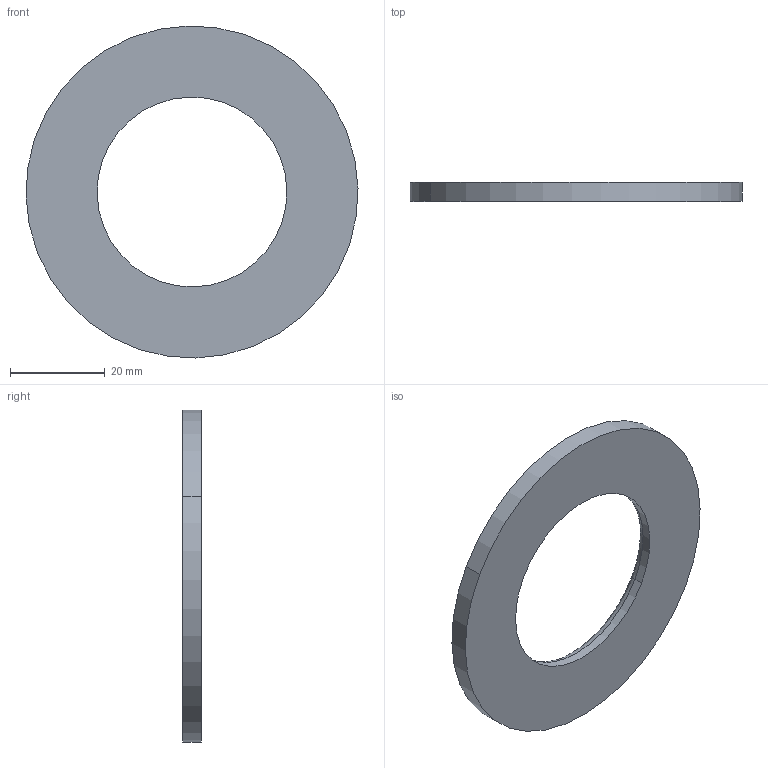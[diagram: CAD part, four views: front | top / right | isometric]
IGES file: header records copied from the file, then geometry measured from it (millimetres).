
Start section: START RECORD GO HERE.
Global section: file name: BAGUE DE FROTTEMENT.igs; native system: IBM CATIA IGES - CATIA Version 5 Release 18 ; preprocessor: CATIA Version 5 Release 18 ; author: Propriétaire; organization: FUJITSU-79916BB; date: 20090111.155345; units: millimetre
Bounding box: 69.98 x 4 x 69.98 mm (x, y, z)
Surface area: 6459.8 mm2 (no closed solid volume)
Topology: 0 solids, 0 shells, 8 faces, 32 edges, 32 vertices
Faces by surface type: revolution 6, plane 2
